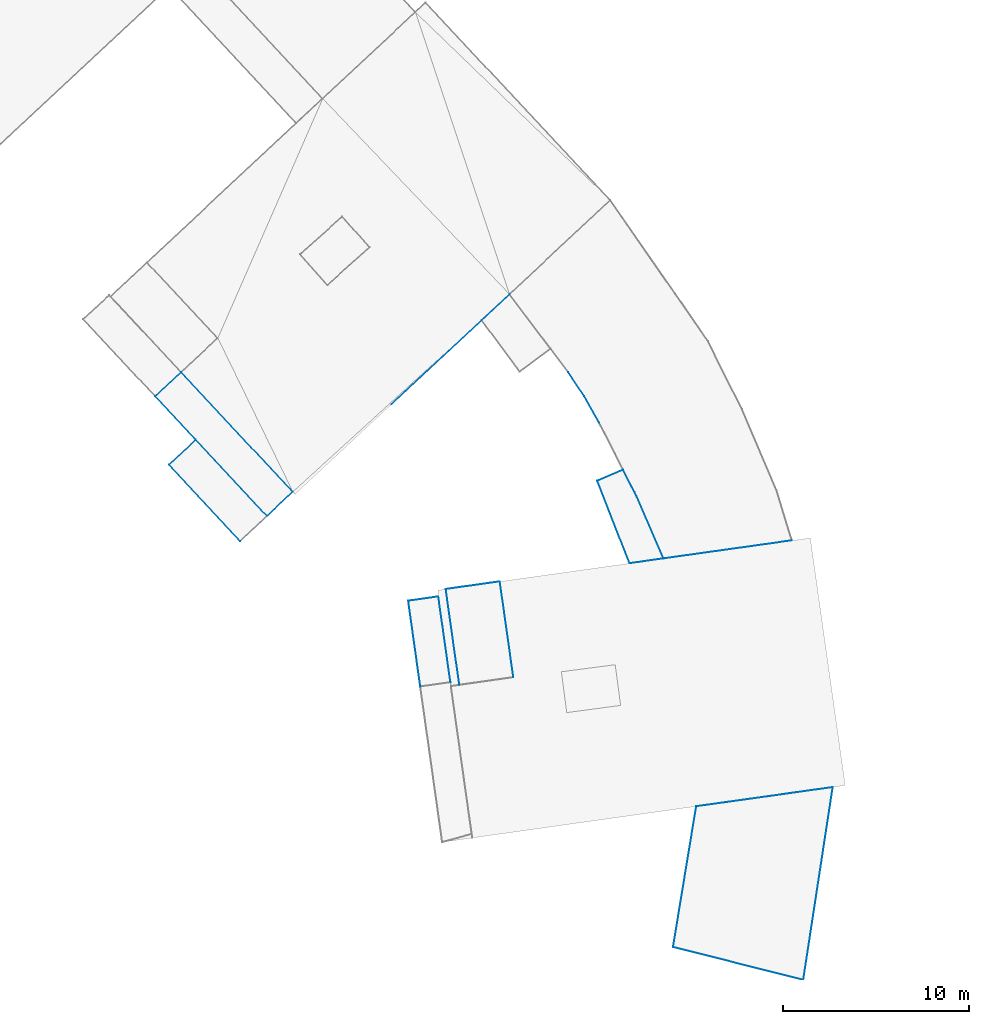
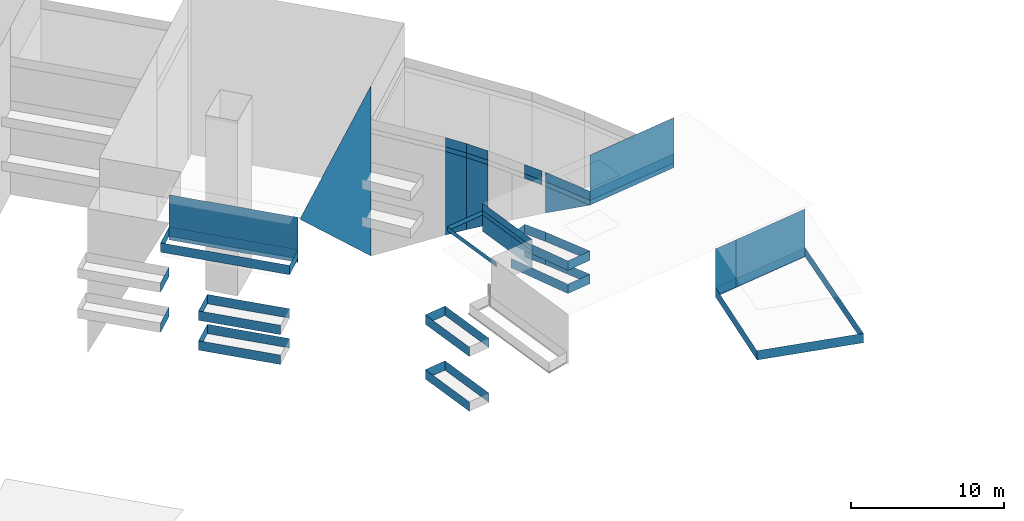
# Not in any storey, part 18 of 136: 92 walls.
"""IFC4 building model written with IfcOpenShell, lengths in metres."""

from ifc_helpers import new_model, entity, si_unit, converted_unit, frame, origin, place, context, subcontext, project, spatial, face_set, surface_model, element, save


model = new_model("IFC4")

# Units and contexts
model_context = context("Model", 3, precision=1e-05, world=origin())
body_context = subcontext(model_context, "Body", "Model", "MODEL_VIEW")
ifc_project = project(units=[converted_unit("PLANEANGLEUNIT", "DEGREE", entity("IfcRatioMeasure", 0.0174532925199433), si_unit("PLANEANGLEUNIT", "RADIAN"), dimensions=[0, 0, 0, 0, 0, 0, 0]), si_unit("AREAUNIT", "SQUARE_METRE"), si_unit("LENGTHUNIT", "METRE")], contexts=[model_context])

# Site, building
site_placement = place(None, origin())
site = spatial("IfcSite", under=ifc_project, at=site_placement, Name="_site")
building_1_placement = place(site_placement, origin())
building_1 = spatial("IfcBuilding", under=site, at=building_1_placement, Name="_building")

# Walls
wall_1_placement = place(building_1_placement, origin())
element("IfcWall", 1, at=wall_1_placement, inside=building_1, Name="Wall", PredefinedType="NOTDEFINED", context=body_context, shape_type="SurfaceModel", body=[
    surface_model("IfcFaceBasedSurfaceModel", [(144.0, -39.33, 45.37), (142.61, -40.63, 45.37), (142.61, -40.63, 46.12), (144.0, -39.33, 46.12)], [face_set([[[0, 1, 2, 3]]])]),
])
wall_2_placement = place(building_1_placement, origin())
element("IfcWall", 2, at=wall_2_placement, inside=building_1, Name="Wall", PredefinedType="NOTDEFINED", context=body_context, shape_type="SurfaceModel", body=[
    surface_model("IfcFaceBasedSurfaceModel", [(166.41, -45.18, 43.64), (167.8, -44.58, 43.64), (167.8, -44.58, 44.39), (166.41, -45.18, 44.39)], [face_set([[[0, 1, 2, 3]]])]),
])
wall_3_placement = place(building_1_placement, origin())
element("IfcWall", 3, at=wall_3_placement, inside=building_1, Name="Wall", PredefinedType="NOTDEFINED", context=body_context, shape_type="SurfaceModel", body=[
    surface_model("IfcFaceBasedSurfaceModel", [(168.15, -49.62, 43.64), (166.41, -45.18, 43.64), (166.41, -45.18, 44.39), (168.15, -49.62, 44.39)], [face_set([[[0, 1, 2, 3]]])]),
])
wall_4_placement = place(building_1_placement, origin())
element("IfcWall", 4, at=wall_4_placement, inside=building_1, Name="Wall", PredefinedType="NOTDEFINED", context=body_context, shape_type="SurfaceModel", body=[
    surface_model("IfcFaceBasedSurfaceModel", [(168.54, -46.04, 43.64), (169.98, -49.36, 43.64), (169.98, -49.36, 44.39), (168.54, -46.04, 44.39)], [face_set([[[0, 1, 2, 3]]])]),
])
wall_5_placement = place(building_1_placement, origin())
element("IfcWall", 5, at=wall_5_placement, inside=building_1, Name="Wall", PredefinedType="NOTDEFINED", context=body_context, shape_type="SurfaceModel", body=[
    surface_model("IfcFaceBasedSurfaceModel", [(166.41, -45.18, 43.64), (167.8, -44.58, 43.64), (167.8, -44.58, 44.39), (166.41, -45.18, 44.39)], [face_set([[[0, 1, 2, 3]]])]),
])
wall_6_placement = place(building_1_placement, origin())
element("IfcWall", 6, at=wall_6_placement, inside=building_1, Name="Wall", PredefinedType="NOTDEFINED", context=body_context, shape_type="SurfaceModel", body=[
    surface_model("IfcFaceBasedSurfaceModel", [(168.15, -49.62, 43.64), (166.41, -45.18, 43.64), (166.41, -45.18, 44.39), (168.15, -49.62, 44.39)], [face_set([[[0, 1, 2, 3]]])]),
])
wall_7_placement = place(building_1_placement, origin())
element("IfcWall", 7, at=wall_7_placement, inside=building_1, Name="Wall", PredefinedType="NOTDEFINED", context=body_context, shape_type="SurfaceModel", body=[
    surface_model("IfcFaceBasedSurfaceModel", [(143.35, -44.31, 45.12), (144.79, -42.97, 45.12), (144.79, -42.97, 45.87), (143.35, -44.31, 45.87)], [face_set([[[0, 1, 2, 3]]])]),
])
wall_8_placement = place(building_1_placement, origin())
element("IfcWall", 8, at=wall_8_placement, inside=building_1, Name="Wall", PredefinedType="NOTDEFINED", context=body_context, shape_type="SurfaceModel", body=[
    surface_model("IfcFaceBasedSurfaceModel", [(147.18, -48.42, 45.12), (143.35, -44.31, 45.12), (143.35, -44.31, 45.87), (147.18, -48.42, 45.87)], [face_set([[[0, 1, 2, 3]]])]),
])
wall_9_placement = place(building_1_placement, origin())
element("IfcWall", 9, at=wall_9_placement, inside=building_1, Name="Wall", PredefinedType="NOTDEFINED", context=body_context, shape_type="SurfaceModel", body=[
    surface_model("IfcFaceBasedSurfaceModel", [(144.79, -42.97, 45.12), (148.62, -47.07, 45.12), (148.62, -47.07, 45.87), (144.79, -42.97, 45.87)], [face_set([[[0, 1, 2, 3]]])]),
])
wall_10_placement = place(building_1_placement, origin())
element("IfcWall", 10, at=wall_10_placement, inside=building_1, Name="Wall", PredefinedType="NOTDEFINED", context=body_context, shape_type="SurfaceModel", body=[
    surface_model("IfcFaceBasedSurfaceModel", [(143.35, -44.31, 45.12), (144.79, -42.97, 45.12), (144.79, -42.97, 45.87), (143.35, -44.31, 45.87)], [face_set([[[0, 1, 2, 3]]])]),
])
wall_11_placement = place(building_1_placement, origin())
element("IfcWall", 11, at=wall_11_placement, inside=building_1, Name="Wall", PredefinedType="NOTDEFINED", context=body_context, shape_type="SurfaceModel", body=[
    surface_model("IfcFaceBasedSurfaceModel", [(147.18, -48.42, 45.12), (143.35, -44.31, 45.12), (143.35, -44.31, 45.87), (147.18, -48.42, 45.87)], [face_set([[[0, 1, 2, 3]]])]),
])
wall_12_placement = place(building_1_placement, origin())
element("IfcWall", 12, at=wall_12_placement, inside=building_1, Name="Wall", PredefinedType="NOTDEFINED", context=body_context, shape_type="SurfaceModel", body=[
    surface_model("IfcFaceBasedSurfaceModel", [(156.23, -51.64, 40.37), (157.85, -51.41, 40.37), (157.85, -51.41, 41.12), (156.23, -51.64, 41.12)], [face_set([[[0, 1, 2, 3]]])]),
])
wall_13_placement = place(building_1_placement, origin())
element("IfcWall", 13, at=wall_13_placement, inside=building_1, Name="Wall", PredefinedType="NOTDEFINED", context=body_context, shape_type="SurfaceModel", body=[
    surface_model("IfcFaceBasedSurfaceModel", [(156.88, -56.26, 40.37), (156.23, -51.64, 40.37), (156.23, -51.64, 41.12), (156.88, -56.26, 41.12)], [face_set([[[0, 1, 2, 3]]])]),
])
wall_14_placement = place(building_1_placement, origin())
element("IfcWall", 14, at=wall_14_placement, inside=building_1, Name="Wall", PredefinedType="NOTDEFINED", context=body_context, shape_type="SurfaceModel", body=[
    surface_model("IfcFaceBasedSurfaceModel", [(157.85, -51.41, 40.37), (158.5, -56.03, 40.37), (158.5, -56.03, 41.12), (157.85, -51.41, 41.12)], [face_set([[[0, 1, 2, 3]]])]),
])
wall_15_placement = place(building_1_placement, origin())
element("IfcWall", 15, at=wall_15_placement, inside=building_1, Name="Wall", PredefinedType="NOTDEFINED", context=body_context, shape_type="SurfaceModel", body=[
    surface_model("IfcFaceBasedSurfaceModel", [(156.23, -51.64, 40.37), (157.85, -51.41, 40.37), (157.85, -51.41, 41.12), (156.23, -51.64, 41.12)], [face_set([[[0, 1, 2, 3]]])]),
])
wall_16_placement = place(building_1_placement, origin())
element("IfcWall", 16, at=wall_16_placement, inside=building_1, Name="Wall", PredefinedType="NOTDEFINED", context=body_context, shape_type="SurfaceModel", body=[
    surface_model("IfcFaceBasedSurfaceModel", [(156.88, -56.26, 40.37), (156.23, -51.64, 40.37), (156.23, -51.64, 41.12), (156.88, -56.26, 41.12)], [face_set([[[0, 1, 2, 3]]])]),
])
wall_17_placement = place(building_1_placement, origin())
element("IfcWall", 17, at=wall_17_placement, inside=building_1, Name="Wall", PredefinedType="NOTDEFINED", context=body_context, shape_type="SurfaceModel", body=[
    surface_model("IfcFaceBasedSurfaceModel", [(148.62, -47.07, 48.58), (142.61, -40.63, 48.58), (142.61, -40.63, 49.33), (148.62, -47.07, 49.33)], [face_set([[[0, 1, 2, 3]]])]),
])
wall_18_placement = place(building_1_placement, origin())
element("IfcWall", 18, at=wall_18_placement, inside=building_1, Name="Wall", PredefinedType="NOTDEFINED", context=body_context, shape_type="SurfaceModel", body=[
    surface_model("IfcFaceBasedSurfaceModel", [(150.01, -45.77, 48.58), (148.62, -47.07, 48.58), (148.62, -47.07, 49.33), (150.01, -45.77, 49.33)], [face_set([[[0, 1, 2, 3]]])]),
])
wall_19_placement = place(building_1_placement, origin())
element("IfcWall", 19, at=wall_19_placement, inside=building_1, Name="Wall", PredefinedType="NOTDEFINED", context=body_context, shape_type="SurfaceModel", body=[
    surface_model("IfcFaceBasedSurfaceModel", [(142.61, -40.63, 48.58), (144.0, -39.33, 48.58), (144.0, -39.33, 49.33), (142.61, -40.63, 49.33)], [face_set([[[0, 1, 2, 3]]])]),
])
wall_20_placement = place(building_1_placement, origin())
element("IfcWall", 20, at=wall_20_placement, inside=building_1, Name="Wall", PredefinedType="NOTDEFINED", context=body_context, shape_type="SurfaceModel", body=[
    surface_model("IfcFaceBasedSurfaceModel", [(148.62, -47.07, 48.58), (142.61, -40.63, 48.58), (142.61, -40.63, 49.33), (148.62, -47.07, 49.33)], [face_set([[[0, 1, 2, 3]]])]),
])
wall_21_placement = place(building_1_placement, origin())
element("IfcWall", 21, at=wall_21_placement, inside=building_1, Name="Wall", PredefinedType="NOTDEFINED", context=body_context, shape_type="SurfaceModel", body=[
    surface_model("IfcFaceBasedSurfaceModel", [(150.01, -45.77, 48.58), (148.62, -47.07, 48.58), (148.62, -47.07, 49.33), (150.01, -45.77, 49.33)], [face_set([[[0, 1, 2, 3]]])]),
])
wall_22_placement = place(building_1_placement, origin())
element("IfcWall", 22, at=wall_22_placement, inside=building_1, Name="Wall", PredefinedType="NOTDEFINED", context=body_context, shape_type="SurfaceModel", body=[
    surface_model("IfcFaceBasedSurfaceModel", [(142.61, -40.63, 48.58), (144.0, -39.33, 48.58), (144.0, -39.33, 49.33), (142.61, -40.63, 49.33)], [face_set([[[0, 1, 2, 3]]])]),
])
wall_23_placement = place(building_1_placement, origin())
element("IfcWall", 23, at=wall_23_placement, inside=building_1, Name="Wall", PredefinedType="NOTDEFINED", context=body_context, shape_type="SurfaceModel", body=[
    surface_model("IfcFaceBasedSurfaceModel", [(156.23, -51.64, 44.74), (157.85, -51.41, 44.74), (157.85, -51.41, 45.49), (156.23, -51.64, 45.49)], [face_set([[[0, 1, 2, 3]]])]),
])
wall_24_placement = place(building_1_placement, origin())
element("IfcWall", 24, at=wall_24_placement, inside=building_1, Name="Wall", PredefinedType="NOTDEFINED", context=body_context, shape_type="SurfaceModel", body=[
    surface_model("IfcFaceBasedSurfaceModel", [(156.88, -56.26, 44.74), (156.23, -51.64, 44.74), (156.23, -51.64, 45.49), (156.88, -56.26, 45.49)], [face_set([[[0, 1, 2, 3]]])]),
])
wall_25_placement = place(building_1_placement, origin())
element("IfcWall", 25, at=wall_25_placement, inside=building_1, Name="Wall", PredefinedType="NOTDEFINED", context=body_context, shape_type="SurfaceModel", body=[
    surface_model("IfcFaceBasedSurfaceModel", [(157.85, -51.41, 44.74), (158.5, -56.03, 44.74), (158.5, -56.03, 45.49), (157.85, -51.41, 45.49)], [face_set([[[0, 1, 2, 3]]])]),
])
wall_26_placement = place(building_1_placement, origin())
element("IfcWall", 26, at=wall_26_placement, inside=building_1, Name="Wall", PredefinedType="NOTDEFINED", context=body_context, shape_type="SurfaceModel", body=[
    surface_model("IfcFaceBasedSurfaceModel", [(156.23, -51.64, 44.74), (157.85, -51.41, 44.74), (157.85, -51.41, 45.49), (156.23, -51.64, 45.49)], [face_set([[[0, 1, 2, 3]]])]),
])
wall_27_placement = place(building_1_placement, origin())
element("IfcWall", 27, at=wall_27_placement, inside=building_1, Name="Wall", PredefinedType="NOTDEFINED", context=body_context, shape_type="SurfaceModel", body=[
    surface_model("IfcFaceBasedSurfaceModel", [(156.88, -56.26, 44.74), (156.23, -51.64, 44.74), (156.23, -51.64, 45.49), (156.88, -56.26, 45.49)], [face_set([[[0, 1, 2, 3]]])]),
])
wall_28_placement = place(building_1_placement, origin())
element("IfcWall", 28, at=wall_28_placement, inside=building_1, Name="Wall", PredefinedType="NOTDEFINED", context=body_context, shape_type="SurfaceModel", body=[
    surface_model("IfcFaceBasedSurfaceModel", [(176.89, -48.39, 48.41), (169.98, -49.36, 48.41), (169.98, -49.36, 48.04), (176.89, -48.39, 48.04)], [face_set([[[0, 1, 2, 3]]])]),
])
wall_29_placement = place(building_1_placement, origin())
element("IfcWall", 29, at=wall_29_placement, inside=building_1, Name="Wall", PredefinedType="NOTDEFINED", context=body_context, shape_type="SurfaceModel", body=[
    surface_model("IfcFaceBasedSurfaceModel", [(165.71, -40.63, 48.41), (164.85, -39.33, 48.41), (164.85, -39.33, 48.04), (165.71, -40.63, 48.04)], [face_set([[[0, 1, 2, 3]]])]),
])
wall_30_placement = place(building_1_placement, origin())
element("IfcWall", 30, at=wall_30_placement, inside=building_1, Name="Wall", PredefinedType="NOTDEFINED", context=body_context, shape_type="SurfaceModel", body=[
    surface_model("IfcFaceBasedSurfaceModel", [(166.51, -42.04, 48.41), (165.71, -40.63, 48.41), (165.71, -40.63, 48.04), (166.51, -42.04, 48.04)], [face_set([[[0, 1, 2, 3]]])]),
])
wall_31_placement = place(building_1_placement, origin())
element("IfcWall", 31, at=wall_31_placement, inside=building_1, Name="Wall", PredefinedType="NOTDEFINED", context=body_context, shape_type="SurfaceModel", body=[
    surface_model("IfcFaceBasedSurfaceModel", [(169.98, -49.36, 48.41), (168.54, -46.04, 48.41), (168.54, -46.04, 48.04), (169.98, -49.36, 48.04)], [face_set([[[0, 1, 2, 3]]])]),
])
for number, where, name in (
    (32, (0.0, 0.0, 0.0), "Wall"),
    (33, (0.0, 0.0, 0.0), "Wall"),
):
    element("IfcWall", number, at=place(building_1_placement, frame(where)), inside=building_1, Name=name, PredefinedType="NOTDEFINED", context=body_context, shape_type="SurfaceModel", body=[
        surface_model("IfcFaceBasedSurfaceModel", [(170.49, -70.29, 48.2), (171.74, -62.71, 48.2), (171.74, -62.71, 48.95), (170.49, -70.29, 48.95)], [face_set([[[0, 1, 2, 3]]])]),
    ])
wall_32_placement = place(building_1_placement, origin())
element("IfcWall", 34, at=wall_32_placement, inside=building_1, Name="Wall", PredefinedType="NOTDEFINED", context=body_context, shape_type="SurfaceModel", body=[
    surface_model("IfcFaceBasedSurfaceModel", [(165.71, -40.63, 48.04), (164.85, -39.33, 48.04), (164.85, -39.33, 41.367), (165.71, -40.63, 42.288)], [face_set([[[0, 1, 2, 3]]])]),
])
wall_33_placement = place(building_1_placement, origin())
element("IfcWall", 35, at=wall_33_placement, inside=building_1, Name="Wall", PredefinedType="NOTDEFINED", context=body_context, shape_type="SurfaceModel", body=[
    surface_model("IfcFaceBasedSurfaceModel", [(166.51, -42.04, 48.04), (165.71, -40.63, 48.04), (165.71, -40.63, 42.288), (166.51, -42.04, 43.247)], [face_set([[[0, 1, 2, 3]]])]),
])
wall_34_placement = place(building_1_placement, origin())
element("IfcWall", 36, at=wall_34_placement, inside=building_1, Name="Wall", PredefinedType="NOTDEFINED", context=body_context, shape_type="SurfaceModel", body=[
    surface_model("IfcFaceBasedSurfaceModel", [(169.98, -49.36, 48.04), (168.54, -46.04, 48.04), (168.54, -46.04, 45.9)], [face_set([[[0, 1, 2]]])]),
])
wall_35_placement = place(building_1_placement, origin())
element("IfcWall", 37, at=wall_35_placement, inside=building_1, Name="Wall", PredefinedType="NOTDEFINED", context=body_context, shape_type="SurfaceModel", body=[
    surface_model("IfcFaceBasedSurfaceModel", [(161.68, -35.13, 51.89), (150.13, -45.899, 51.89), (150.13, -45.899, 51.74), (161.68, -35.13, 38.255)], [face_set([[[0, 1, 2, 3]]])]),
])
wall_36_placement = place(building_1_placement, origin())
element("IfcWall", 38, at=wall_36_placement, inside=building_1, Name="Wall", PredefinedType="NOTDEFINED", context=body_context, shape_type="SurfaceModel", body=[
    surface_model("IfcFaceBasedSurfaceModel", [(169.98, -49.36, 52.04), (176.89, -48.39, 52.04), (176.89, -48.39, 48.04), (169.98, -49.36, 48.04)], [face_set([[[0, 1, 2, 3]]])]),
])
wall_37_placement = place(building_1_placement, origin())
element("IfcWall", 39, at=wall_37_placement, inside=building_1, Name="Wall", PredefinedType="NOTDEFINED", context=body_context, shape_type="SurfaceModel", body=[
    surface_model("IfcFaceBasedSurfaceModel", [(165.71, -40.63, 48.41), (164.85, -39.33, 48.41), (164.85, -39.33, 49.16), (165.71, -40.63, 49.16)], [face_set([[[0, 1, 2, 3]]])]),
])
wall_38_placement = place(building_1_placement, origin())
element("IfcWall", 40, at=wall_38_placement, inside=building_1, Name="Wall", PredefinedType="NOTDEFINED", context=body_context, shape_type="SurfaceModel", body=[
    surface_model("IfcFaceBasedSurfaceModel", [(166.51, -42.04, 48.41), (165.71, -40.63, 48.41), (165.71, -40.63, 49.16), (166.51, -42.04, 49.16)], [face_set([[[0, 1, 2, 3]]])]),
])
wall_39_placement = place(building_1_placement, origin())
element("IfcWall", 41, at=wall_39_placement, inside=building_1, Name="Wall", PredefinedType="NOTDEFINED", context=body_context, shape_type="SurfaceModel", body=[
    surface_model("IfcFaceBasedSurfaceModel", [(168.42, -45.8, 48.41), (167.8, -44.58, 48.41), (167.8, -44.58, 49.16), (168.42, -45.8, 49.16)], [face_set([[[0, 1, 2, 3]]])]),
])
wall_40_placement = place(building_1_placement, origin())
element("IfcWall", 42, at=wall_40_placement, inside=building_1, Name="Wall", PredefinedType="NOTDEFINED", context=body_context, shape_type="SurfaceModel", body=[
    surface_model("IfcFaceBasedSurfaceModel", [(169.98, -49.36, 48.41), (168.54, -46.04, 48.41), (168.54, -46.04, 49.16), (169.98, -49.36, 49.16)], [face_set([[[0, 1, 2, 3]]])]),
])
wall_41_placement = place(building_1_placement, origin())
element("IfcWall", 43, at=wall_41_placement, inside=building_1, Name="Wall", PredefinedType="NOTDEFINED", context=body_context, shape_type="SurfaceModel", body=[
    surface_model("IfcFaceBasedSurfaceModel", [(176.89, -48.39, 48.41), (169.98, -49.36, 48.41), (169.98, -49.36, 49.16), (176.89, -48.39, 49.16)], [face_set([[[0, 1, 2, 3]]])]),
])
wall_42_placement = place(building_1_placement, origin())
element("IfcWall", 44, at=wall_42_placement, inside=building_1, Name="Wall", PredefinedType="NOTDEFINED", context=body_context, shape_type="SurfaceModel", body=[
    surface_model("IfcFaceBasedSurfaceModel", [(165.71, -40.63, 48.41), (164.85, -39.33, 48.41), (164.85, -39.33, 49.16), (165.71, -40.63, 49.16)], [face_set([[[0, 1, 2, 3]]])]),
])
wall_43_placement = place(building_1_placement, origin())
element("IfcWall", 45, at=wall_43_placement, inside=building_1, Name="Wall", PredefinedType="NOTDEFINED", context=body_context, shape_type="SurfaceModel", body=[
    surface_model("IfcFaceBasedSurfaceModel", [(166.51, -42.04, 48.41), (165.71, -40.63, 48.41), (165.71, -40.63, 49.16), (166.51, -42.04, 49.16)], [face_set([[[0, 1, 2, 3]]])]),
])
wall_44_placement = place(building_1_placement, origin())
element("IfcWall", 46, at=wall_44_placement, inside=building_1, Name="Wall", PredefinedType="NOTDEFINED", context=body_context, shape_type="SurfaceModel", body=[
    surface_model("IfcFaceBasedSurfaceModel", [(169.98, -49.36, 48.41), (168.54, -46.04, 48.41), (168.54, -46.04, 49.16), (169.98, -49.36, 49.16)], [face_set([[[0, 1, 2, 3]]])]),
])
wall_45_placement = place(building_1_placement, origin())
element("IfcWall", 47, at=wall_45_placement, inside=building_1, Name="Wall", PredefinedType="NOTDEFINED", context=body_context, shape_type="SurfaceModel", body=[
    surface_model("IfcFaceBasedSurfaceModel", [(158.25, -51.01, 51.45), (161.16, -50.6, 51.45), (161.16, -50.6, 51.1), (158.25, -51.01, 51.1)], [face_set([[[0, 1, 2, 3]]])]),
])
wall_46_placement = place(building_1_placement, origin())
element("IfcWall", 48, at=wall_46_placement, inside=building_1, Name="Wall", PredefinedType="NOTDEFINED", context=body_context, shape_type="SurfaceModel", body=[
    surface_model("IfcFaceBasedSurfaceModel", [(144.0, -39.33, 42.17), (142.61, -40.63, 42.17), (142.61, -40.63, 42.92), (144.0, -39.33, 42.92)], [face_set([[[0, 1, 2, 3]]])]),
])
wall_47_placement = place(building_1_placement, origin())
element("IfcWall", 49, at=wall_47_placement, inside=building_1, Name="Wall", PredefinedType="NOTDEFINED", context=body_context, shape_type="SurfaceModel", body=[
    surface_model("IfcFaceBasedSurfaceModel", [(143.35, -44.31, 42.74), (144.79, -42.97, 42.74), (144.79, -42.97, 43.49), (143.35, -44.31, 43.49)], [face_set([[[0, 1, 2, 3]]])]),
])
wall_48_placement = place(building_1_placement, origin())
element("IfcWall", 50, at=wall_48_placement, inside=building_1, Name="Wall", PredefinedType="NOTDEFINED", context=body_context, shape_type="SurfaceModel", body=[
    surface_model("IfcFaceBasedSurfaceModel", [(147.18, -48.42, 42.74), (143.35, -44.31, 42.74), (143.35, -44.31, 43.49), (147.18, -48.42, 43.49)], [face_set([[[0, 1, 2, 3]]])]),
])
wall_49_placement = place(building_1_placement, origin())
element("IfcWall", 51, at=wall_49_placement, inside=building_1, Name="Wall", PredefinedType="NOTDEFINED", context=body_context, shape_type="SurfaceModel", body=[
    surface_model("IfcFaceBasedSurfaceModel", [(144.79, -42.97, 42.74), (148.62, -47.07, 42.74), (148.62, -47.07, 43.49), (144.79, -42.97, 43.49)], [face_set([[[0, 1, 2, 3]]])]),
])
wall_50_placement = place(building_1_placement, origin())
element("IfcWall", 52, at=wall_50_placement, inside=building_1, Name="Wall", PredefinedType="NOTDEFINED", context=body_context, shape_type="SurfaceModel", body=[
    surface_model("IfcFaceBasedSurfaceModel", [(143.35, -44.31, 42.74), (144.79, -42.97, 42.74), (144.79, -42.97, 43.49), (143.35, -44.31, 43.49)], [face_set([[[0, 1, 2, 3]]])]),
])
wall_51_placement = place(building_1_placement, origin())
element("IfcWall", 53, at=wall_51_placement, inside=building_1, Name="Wall", PredefinedType="NOTDEFINED", context=body_context, shape_type="SurfaceModel", body=[
    surface_model("IfcFaceBasedSurfaceModel", [(147.18, -48.42, 42.74), (143.35, -44.31, 42.74), (143.35, -44.31, 43.49), (147.18, -48.42, 43.49)], [face_set([[[0, 1, 2, 3]]])]),
])
wall_52_placement = place(building_1_placement, origin())
element("IfcWall", 54, at=wall_52_placement, inside=building_1, Name="Wall", PredefinedType="NOTDEFINED", context=body_context, shape_type="SurfaceModel", body=[
    surface_model("IfcFaceBasedSurfaceModel", [(168.15, -49.62, 41.78), (166.41, -45.18, 41.78), (166.41, -45.18, 42.53), (168.15, -49.62, 42.53)], [face_set([[[0, 1, 2, 3]]])]),
])
wall_53_placement = place(building_1_placement, origin())
element("IfcWall", 55, at=wall_53_placement, inside=building_1, Name="Wall", PredefinedType="NOTDEFINED", context=body_context, shape_type="SurfaceModel", body=[
    surface_model("IfcFaceBasedSurfaceModel", [(168.54, -46.04, 41.78), (169.98, -49.36, 41.78), (169.98, -49.36, 42.53), (168.54, -46.04, 42.53)], [face_set([[[0, 1, 2, 3]]])]),
])
wall_54_placement = place(building_1_placement, origin())
element("IfcWall", 56, at=wall_54_placement, inside=building_1, Name="Wall", PredefinedType="NOTDEFINED", context=body_context, shape_type="SurfaceModel", body=[
    surface_model("IfcFaceBasedSurfaceModel", [(168.15, -49.62, 41.78), (166.41, -45.18, 41.78), (166.41, -45.18, 42.53), (168.15, -49.62, 42.53)], [face_set([[[0, 1, 2, 3]]])]),
])

# Building
building_2_placement = place(site_placement, origin())
building_2 = spatial("IfcBuilding", under=site, at=building_2_placement, Name="_building")

# Walls
wall_55_placement = place(building_2_placement, origin())
element("IfcWall", 57, at=wall_55_placement, inside=building_2, Name="Wall", PredefinedType="NOTDEFINED", context=body_context, shape_type="SurfaceModel", body=[
    surface_model("IfcFaceBasedSurfaceModel", [(144.0, -39.33, 45.37), (142.61, -40.63, 45.37), (142.61, -40.63, 46.12), (144.0, -39.33, 46.12)], [face_set([[[0, 1, 2, 3]]])]),
])
wall_56_placement = place(building_2_placement, origin())
element("IfcWall", 58, at=wall_56_placement, inside=building_2, Name="Wall", PredefinedType="NOTDEFINED", context=body_context, shape_type="SurfaceModel", body=[
    surface_model("IfcFaceBasedSurfaceModel", [(168.54, -46.04, 43.64), (169.98, -49.36, 43.64), (169.98, -49.36, 44.39), (168.54, -46.04, 44.39)], [face_set([[[0, 1, 2, 3]]])]),
])
for number, where, name in (
    (59, (0.0, 0.0, 0.0), "Wall"),
    (60, (0.0, 0.0, 0.0), "Wall"),
):
    element("IfcWall", number, at=place(building_2_placement, frame(where)), inside=building_2, Name=name, PredefinedType="NOTDEFINED", context=body_context, shape_type="SurfaceModel", body=[
        surface_model("IfcFaceBasedSurfaceModel", [(167.8, -44.58, 43.64), (168.54, -46.04, 43.64), (168.54, -46.04, 44.39), (167.8, -44.58, 44.39)], [face_set([[[0, 1, 2, 3]]])]),
    ])
wall_57_placement = place(building_2_placement, origin())
element("IfcWall", 61, at=wall_57_placement, inside=building_2, Name="Wall", PredefinedType="NOTDEFINED", context=body_context, shape_type="SurfaceModel", body=[
    surface_model("IfcFaceBasedSurfaceModel", [(144.79, -42.97, 45.12), (148.62, -47.07, 45.12), (148.62, -47.07, 45.87), (144.79, -42.97, 45.87)], [face_set([[[0, 1, 2, 3]]])]),
])
for number, where, name in (
    (62, (0.0, 0.0, 0.0), "Wall"),
    (63, (0.0, 0.0, 0.0), "Wall"),
):
    element("IfcWall", number, at=place(building_2_placement, frame(where)), inside=building_2, Name=name, PredefinedType="NOTDEFINED", context=body_context, shape_type="SurfaceModel", body=[
        surface_model("IfcFaceBasedSurfaceModel", [(144.0, -39.33, 48.58), (150.01, -45.77, 48.58), (150.01, -45.77, 49.33), (144.0, -39.33, 49.33)], [face_set([[[0, 1, 2, 3]]])]),
    ])
wall_58_placement = place(building_2_placement, origin())
element("IfcWall", 64, at=wall_58_placement, inside=building_2, Name="Wall", PredefinedType="NOTDEFINED", context=body_context, shape_type="SurfaceModel", body=[
    surface_model("IfcFaceBasedSurfaceModel", [(168.42, -45.8, 48.41), (167.8, -44.58, 48.41), (167.8, -44.58, 48.04), (168.42, -45.8, 48.04)], [face_set([[[0, 1, 2, 3]]])]),
])
wall_59_placement = place(building_2_placement, origin())
element("IfcWall", 65, at=wall_59_placement, inside=building_2, Name="Wall", PredefinedType="NOTDEFINED", context=body_context, shape_type="SurfaceModel", body=[
    surface_model("IfcFaceBasedSurfaceModel", [(150.01, -45.77, 51.89), (144.0, -39.33, 51.89), (144.0, -39.33, 48.29), (150.01, -45.77, 48.29)], [face_set([[[0, 1, 2, 3]]])]),
])
wall_60_placement = place(building_2_placement, origin())
element("IfcWall", 66, at=wall_60_placement, inside=building_2, Name="Wall", PredefinedType="NOTDEFINED", context=body_context, shape_type="SurfaceModel", body=[
    surface_model("IfcFaceBasedSurfaceModel", [(168.42, -45.8, 48.41), (167.8, -44.58, 48.41), (167.8, -44.58, 49.16), (168.42, -45.8, 49.16)], [face_set([[[0, 1, 2, 3]]])]),
])
wall_61_placement = place(building_2_placement, origin())
element("IfcWall", 67, at=wall_61_placement, inside=building_2, Name="Wall", PredefinedType="NOTDEFINED", context=body_context, shape_type="SurfaceModel", body=[
    surface_model("IfcFaceBasedSurfaceModel", [(144.0, -39.33, 42.17), (142.61, -40.63, 42.17), (142.61, -40.63, 42.92), (144.0, -39.33, 42.92)], [face_set([[[0, 1, 2, 3]]])]),
])
wall_62_placement = place(building_2_placement, origin())
element("IfcWall", 68, at=wall_62_placement, inside=building_2, Name="Wall", PredefinedType="NOTDEFINED", context=body_context, shape_type="SurfaceModel", body=[
    surface_model("IfcFaceBasedSurfaceModel", [(144.79, -42.97, 42.74), (148.62, -47.07, 42.74), (148.62, -47.07, 43.49), (144.79, -42.97, 43.49)], [face_set([[[0, 1, 2, 3]]])]),
])
wall_63_placement = place(building_2_placement, origin())
element("IfcWall", 69, at=wall_63_placement, inside=building_2, Name="Wall", PredefinedType="NOTDEFINED", context=body_context, shape_type="SurfaceModel", body=[
    surface_model("IfcFaceBasedSurfaceModel", [(168.54, -46.04, 41.78), (169.98, -49.36, 41.78), (169.98, -49.36, 42.53), (168.54, -46.04, 42.53)], [face_set([[[0, 1, 2, 3]]])]),
])
for number, where, name in (
    (70, (0.0, 0.0, 0.0), "Wall"),
    (71, (0.0, 0.0, 0.0), "Wall"),
):
    element("IfcWall", number, at=place(building_2_placement, frame(where)), inside=building_2, Name=name, PredefinedType="NOTDEFINED", context=body_context, shape_type="SurfaceModel", body=[
        surface_model("IfcFaceBasedSurfaceModel", [(167.8, -44.58, 41.78), (168.54, -46.04, 41.78), (168.54, -46.04, 42.53), (167.8, -44.58, 42.53)], [face_set([[[0, 1, 2, 3]]])]),
    ])

# Building
building_3_placement = place(site_placement, origin())
building_3 = spatial("IfcBuilding", under=site, at=building_3_placement, Name="_building")

# Walls
for number, where, name in (
    (72, (0.0, 0.0, 0.0), "Wall"),
    (73, (0.0, 0.0, 0.0), "Wall"),
):
    element("IfcWall", number, at=place(building_3_placement, frame(where)), inside=building_3, Name=name, PredefinedType="NOTDEFINED", context=body_context, shape_type="SurfaceModel", body=[
        surface_model("IfcFaceBasedSurfaceModel", [(169.98, -49.36, 43.64), (168.15, -49.62, 43.64), (168.15, -49.62, 44.39), (169.98, -49.36, 44.39)], [face_set([[[0, 1, 2, 3]]])]),
    ])
wall_64_placement = place(building_3_placement, origin())
element("IfcWall", 74, at=wall_64_placement, inside=building_3, Name="Wall", PredefinedType="NOTDEFINED", context=body_context, shape_type="SurfaceModel", body=[
    surface_model("IfcFaceBasedSurfaceModel", [(157.85, -51.41, 40.37), (158.5, -56.03, 40.37), (158.5, -56.03, 41.12), (157.85, -51.41, 41.12)], [face_set([[[0, 1, 2, 3]]])]),
])
wall_65_placement = place(building_3_placement, origin())
element("IfcWall", 75, at=wall_65_placement, inside=building_3, Name="Wall", PredefinedType="NOTDEFINED", context=body_context, shape_type="SurfaceModel", body=[
    surface_model("IfcFaceBasedSurfaceModel", [(157.85, -51.41, 44.74), (158.5, -56.03, 44.74), (158.5, -56.03, 45.49), (157.85, -51.41, 45.49)], [face_set([[[0, 1, 2, 3]]])]),
])
wall_66_placement = place(building_3_placement, origin())
element("IfcWall", 76, at=wall_66_placement, inside=building_3, Name="Wall", PredefinedType="NOTDEFINED", context=body_context, shape_type="SurfaceModel", body=[
    surface_model("IfcFaceBasedSurfaceModel", [(171.74, -62.71, 48.2), (179.09, -61.68, 48.2), (179.09, -61.68, 48.95), (171.74, -62.71, 48.95)], [face_set([[[0, 1, 2, 3]]])]),
])
wall_67_placement = place(building_3_placement, origin())
element("IfcWall", 77, at=wall_67_placement, inside=building_3, Name="Wall", PredefinedType="NOTDEFINED", context=body_context, shape_type="SurfaceModel", body=[
    surface_model("IfcFaceBasedSurfaceModel", [(177.5, -72.06, 48.2), (170.49, -70.29, 48.2), (170.49, -70.29, 48.95), (177.5, -72.06, 48.95)], [face_set([[[0, 1, 2, 3]]])]),
])
wall_68_placement = place(building_3_placement, origin())
element("IfcWall", 78, at=wall_68_placement, inside=building_3, Name="Wall", PredefinedType="NOTDEFINED", context=body_context, shape_type="SurfaceModel", body=[
    surface_model("IfcFaceBasedSurfaceModel", [(179.09, -61.68, 48.2), (177.5, -72.06, 48.2), (177.5, -72.06, 48.95), (179.09, -61.68, 48.95)], [face_set([[[0, 1, 2, 3]]])]),
])
wall_69_placement = place(building_3_placement, origin())
element("IfcWall", 79, at=wall_69_placement, inside=building_3, Name="Wall", PredefinedType="NOTDEFINED", context=body_context, shape_type="SurfaceModel", body=[
    surface_model("IfcFaceBasedSurfaceModel", [(171.74, -62.71, 48.2), (179.09, -61.68, 48.2), (179.09, -61.68, 48.95), (171.74, -62.71, 48.95)], [face_set([[[0, 1, 2, 3]]])]),
])
wall_70_placement = place(building_3_placement, origin())
element("IfcWall", 80, at=wall_70_placement, inside=building_3, Name="Wall", PredefinedType="NOTDEFINED", context=body_context, shape_type="SurfaceModel", body=[
    surface_model("IfcFaceBasedSurfaceModel", [(177.5, -72.06, 48.2), (170.49, -70.29, 48.2), (170.49, -70.29, 48.95), (177.5, -72.06, 48.95)], [face_set([[[0, 1, 2, 3]]])]),
])
wall_71_placement = place(building_3_placement, origin())
element("IfcWall", 81, at=wall_71_placement, inside=building_3, Name="Wall", PredefinedType="NOTDEFINED", context=body_context, shape_type="SurfaceModel", body=[
    surface_model("IfcFaceBasedSurfaceModel", [(179.09, -61.68, 48.2), (177.5, -72.06, 48.2), (177.5, -72.06, 48.95), (179.09, -61.68, 48.95)], [face_set([[[0, 1, 2, 3]]])]),
])
wall_72_placement = place(building_3_placement, origin())
element("IfcWall", 82, at=wall_72_placement, inside=building_3, Name="Wall", PredefinedType="NOTDEFINED", context=body_context, shape_type="SurfaceModel", body=[
    surface_model("IfcFaceBasedSurfaceModel", [(161.89, -55.76, 52.04), (161.16, -50.6, 52.04), (161.16, -50.6, 49.79), (161.89, -55.76, 49.79)], [face_set([[[0, 1, 2, 3]]])]),
])
wall_73_placement = place(building_3_placement, origin())
element("IfcWall", 83, at=wall_73_placement, inside=building_3, Name="Wall", PredefinedType="NOTDEFINED", context=body_context, shape_type="SurfaceModel", body=[
    surface_model("IfcFaceBasedSurfaceModel", [(173.4, -62.479, 52.04), (171.74, -62.71, 52.04), (171.74, -62.71, 48.27), (173.4, -62.479, 48.27)], [face_set([[[0, 1, 2, 3]]])]),
])
wall_74_placement = place(building_3_placement, origin())
element("IfcWall", 84, at=wall_74_placement, inside=building_3, Name="Wall", PredefinedType="NOTDEFINED", context=body_context, shape_type="SurfaceModel", body=[
    surface_model("IfcFaceBasedSurfaceModel", [(179.09, -61.68, 52.04), (173.4, -62.479, 52.04), (173.4, -62.479, 48.27), (179.09, -61.68, 48.27)], [face_set([[[0, 1, 2, 3]]])]),
])
wall_75_placement = place(building_3_placement, origin())
element("IfcWall", 85, at=wall_75_placement, inside=building_3, Name="Wall", PredefinedType="NOTDEFINED", context=body_context, shape_type="SurfaceModel", body=[
    surface_model("IfcFaceBasedSurfaceModel", [(176.89, -48.39, 48.41), (169.98, -49.36, 48.41), (169.98, -49.36, 49.16), (176.89, -48.39, 49.16)], [face_set([[[0, 1, 2, 3]]])]),
])
wall_76_placement = place(building_3_placement, origin())
element("IfcWall", 86, at=wall_76_placement, inside=building_3, Name="Wall", PredefinedType="NOTDEFINED", context=body_context, shape_type="SurfaceModel", body=[
    surface_model("IfcFaceBasedSurfaceModel", [(158.98, -56.17, 51.45), (158.25, -51.01, 51.45), (158.25, -51.01, 51.1), (158.98, -56.17, 51.1)], [face_set([[[0, 1, 2, 3]]])]),
])
wall_77_placement = place(building_3_placement, origin())
element("IfcWall", 87, at=wall_77_placement, inside=building_3, Name="Wall", PredefinedType="NOTDEFINED", context=body_context, shape_type="SurfaceModel", body=[
    surface_model("IfcFaceBasedSurfaceModel", [(161.16, -50.6, 51.45), (161.89, -55.76, 51.45), (161.89, -55.76, 51.1), (161.16, -50.6, 51.1)], [face_set([[[0, 1, 2, 3]]])]),
])
wall_78_placement = place(building_3_placement, origin())
element("IfcWall", 88, at=wall_78_placement, inside=building_3, Name="Wall", PredefinedType="NOTDEFINED", context=body_context, shape_type="SurfaceModel", body=[
    surface_model("IfcFaceBasedSurfaceModel", [(158.25, -51.01, 51.45), (161.16, -50.6, 51.45), (161.16, -50.6, 51.1), (158.25, -51.01, 51.1)], [face_set([[[0, 1, 2, 3]]])]),
])
wall_79_placement = place(building_3_placement, origin())
element("IfcWall", 89, at=wall_79_placement, inside=building_3, Name="Wall", PredefinedType="NOTDEFINED", context=body_context, shape_type="SurfaceModel", body=[
    surface_model("IfcFaceBasedSurfaceModel", [(158.98, -56.17, 51.45), (158.25, -51.01, 51.45), (158.25, -51.01, 51.1), (158.98, -56.17, 51.1)], [face_set([[[0, 1, 2, 3]]])]),
])
wall_80_placement = place(building_3_placement, origin())
element("IfcWall", 90, at=wall_80_placement, inside=building_3, Name="Wall", PredefinedType="NOTDEFINED", context=body_context, shape_type="SurfaceModel", body=[
    surface_model("IfcFaceBasedSurfaceModel", [(161.16, -50.6, 51.45), (161.89, -55.76, 51.45), (161.89, -55.76, 51.1), (161.16, -50.6, 51.1)], [face_set([[[0, 1, 2, 3]]])]),
])
for number, where, name in (
    (91, (0.0, 0.0, 0.0), "Wall"),
    (92, (0.0, 0.0, 0.0), "Wall"),
):
    element("IfcWall", number, at=place(building_3_placement, frame(where)), inside=building_3, Name=name, PredefinedType="NOTDEFINED", context=body_context, shape_type="SurfaceModel", body=[
        surface_model("IfcFaceBasedSurfaceModel", [(169.98, -49.36, 41.78), (168.15, -49.62, 41.78), (168.15, -49.62, 42.53), (169.98, -49.36, 42.53)], [face_set([[[0, 1, 2, 3]]])]),
    ])

save(model, "model.ifc")
